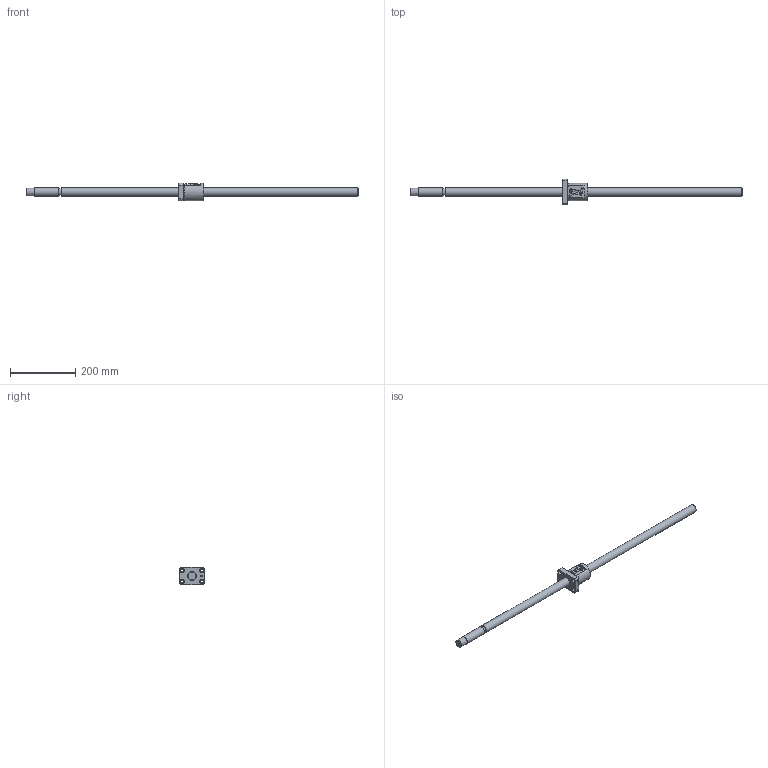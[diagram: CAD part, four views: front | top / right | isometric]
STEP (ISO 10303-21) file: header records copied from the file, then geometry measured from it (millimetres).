
FILE_DESCRIPTION((''),'2;1');
FILE_NAME('D:\製品 (図面)\カタログ用3D\ネジ関連\STEP形式\KBS(C)\KBS(C)2525-1020.stp','2010-06-02T14:22:04',('Tsuchiya'),(''),'Autodesk Inventor 10','Autodesk Inventor 10','');
FILE_SCHEMA(('AUTOMOTIVE_DESIGN { 1 0 10303 214 1 1 1 1 }'));
Length unit declared in the file: millimetre
Products named in the file (3): KBS(C)2525-1020; KBS(C)2525-10201; KBS(C)2525-10202
Assembly tree (2 placements, depth 2):
  KBS(C)2525-1020
    KBS(C)2525-10201
    KBS(C)2525-10202
Bounding box: 1020 x 78 x 54 mm (x, y, z)
Volume: 649460.8 mm3; surface area: 112096.2 mm2
Topology: 2 solids, 2 shells, 103 faces, 261 edges, 172 vertices
Faces by surface type: plane 42, cylinder 35, bspline 20, cone 4, torus 2
Full cylindrical faces by diameter (mm): 4.8 x1, 6 x1, 7.4 x1, 9 x4, 14 x4, 21 x1, 24.5 x1, 25 x3, 27 x2, 54 x1
Entity records: 3307 total; most frequent: CARTESIAN_POINT 936, DIRECTION 448, ORIENTED_EDGE 448, EDGE_CURVE 224, AXIS2_PLACEMENT_3D 168, VERTEX_POINT 164, EDGE_LOOP 158, VECTOR 112
